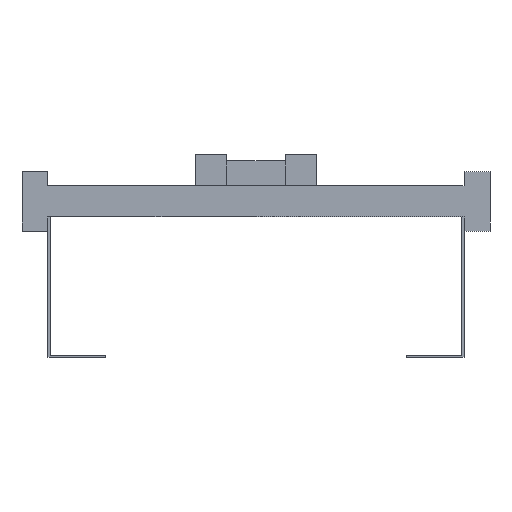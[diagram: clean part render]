
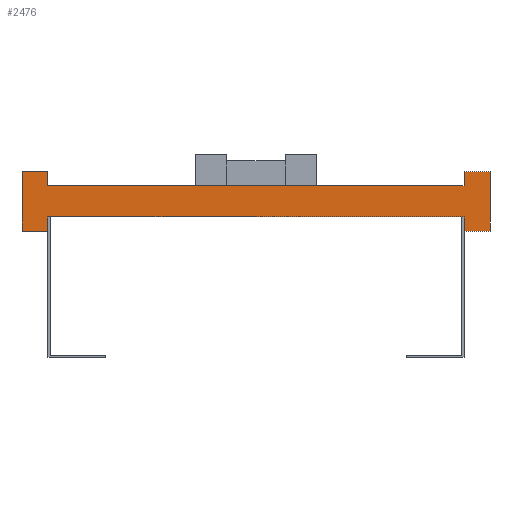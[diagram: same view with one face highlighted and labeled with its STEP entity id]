
A CAD part, front view. The second image highlights one B-rep face of the part: STEP entity #2476.
In plain terms, the highlighted planar face has unit normal (0, -1, 0).
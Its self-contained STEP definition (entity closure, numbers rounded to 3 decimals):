
#1=DIRECTION('',(0.,0.,1.));
#2=VECTOR('',#1,13.5);
#3=CARTESIAN_POINT('',(200.,0.,-28.5));
#4=LINE('',#3,#2);
#5=DIRECTION('',(0.,0.,-1.));
#6=VECTOR('',#5,13.5);
#7=CARTESIAN_POINT('',(-200.,0.,-15.));
#8=LINE('',#7,#6);
#9=DIRECTION('',(-1.,0.,0.));
#10=VECTOR('',#9,25.);
#11=CARTESIAN_POINT('',(-200.,0.,-28.5));
#12=LINE('',#11,#10);
#13=DIRECTION('',(0.,0.,1.));
#14=VECTOR('',#13,57.);
#15=CARTESIAN_POINT('',(-225.,0.,-28.5));
#16=LINE('',#15,#14);
#17=DIRECTION('',(1.,0.,0.));
#18=VECTOR('',#17,25.);
#19=CARTESIAN_POINT('',(-225.,0.,28.5));
#20=LINE('',#19,#18);
#21=DIRECTION('',(0.,0.,-1.));
#22=VECTOR('',#21,13.5);
#23=CARTESIAN_POINT('',(-200.,0.,28.5));
#24=LINE('',#23,#22);
#25=DIRECTION('',(0.,0.,1.));
#26=VECTOR('',#25,13.5);
#27=CARTESIAN_POINT('',(200.,0.,15.));
#28=LINE('',#27,#26);
#29=DIRECTION('',(1.,0.,0.));
#30=VECTOR('',#29,25.);
#31=CARTESIAN_POINT('',(200.,0.,28.5));
#32=LINE('',#31,#30);
#33=DIRECTION('',(0.,0.,-1.));
#34=VECTOR('',#33,57.);
#35=CARTESIAN_POINT('',(225.,0.,28.5));
#36=LINE('',#35,#34);
#37=DIRECTION('',(-1.,0.,0.));
#38=VECTOR('',#37,25.);
#39=CARTESIAN_POINT('',(225.,0.,-28.5));
#40=LINE('',#39,#38);
#1849=DIRECTION('',(1.,0.,0.));
#1850=VECTOR('',#1849,400.);
#1851=CARTESIAN_POINT('',(-200.,0.,-15.));
#1852=LINE('',#1851,#1850);
#1861=DIRECTION('',(1.,0.,0.));
#1862=VECTOR('',#1861,400.);
#1863=CARTESIAN_POINT('',(-200.,0.,15.));
#1864=LINE('',#1863,#1862);
#1865=CARTESIAN_POINT('',(-225.,0.,28.5));
#1866=CARTESIAN_POINT('',(-200.,0.,28.5));
#1867=VERTEX_POINT('',#1865);
#1868=VERTEX_POINT('',#1866);
#1869=CARTESIAN_POINT('',(-200.,0.,-28.5));
#1870=CARTESIAN_POINT('',(-225.,0.,-28.5));
#1871=VERTEX_POINT('',#1869);
#1872=VERTEX_POINT('',#1870);
#1873=CARTESIAN_POINT('',(225.,0.,28.5));
#1874=CARTESIAN_POINT('',(225.,0.,-28.5));
#1875=VERTEX_POINT('',#1873);
#1876=VERTEX_POINT('',#1874);
#1877=CARTESIAN_POINT('',(200.,0.,-28.5));
#1878=VERTEX_POINT('',#1877);
#1879=CARTESIAN_POINT('',(200.,0.,28.5));
#1880=VERTEX_POINT('',#1879);
#1897=CARTESIAN_POINT('',(-200.,0.,-15.));
#1899=VERTEX_POINT('',#1897);
#1901=CARTESIAN_POINT('',(-200.,0.,15.));
#1903=VERTEX_POINT('',#1901);
#1905=CARTESIAN_POINT('',(200.,0.,-15.));
#1907=VERTEX_POINT('',#1905);
#1909=CARTESIAN_POINT('',(200.,0.,15.));
#1911=VERTEX_POINT('',#1909);
#2445=CARTESIAN_POINT('',(0.,0.,0.));
#2446=DIRECTION('',(0.,1.,0.));
#2447=DIRECTION('',(1.,0.,0.));
#2448=AXIS2_PLACEMENT_3D('',#2445,#2446,#2447);
#2449=PLANE('',#2448);
#2451=ORIENTED_EDGE('',*,*,#2450,.T.);
#2453=ORIENTED_EDGE('',*,*,#2452,.F.);
#2455=ORIENTED_EDGE('',*,*,#2454,.T.);
#2457=ORIENTED_EDGE('',*,*,#2456,.T.);
#2459=ORIENTED_EDGE('',*,*,#2458,.T.);
#2461=ORIENTED_EDGE('',*,*,#2460,.T.);
#2463=ORIENTED_EDGE('',*,*,#2462,.T.);
#2465=ORIENTED_EDGE('',*,*,#2464,.T.);
#2467=ORIENTED_EDGE('',*,*,#2466,.T.);
#2469=ORIENTED_EDGE('',*,*,#2468,.T.);
#2471=ORIENTED_EDGE('',*,*,#2470,.T.);
#2473=ORIENTED_EDGE('',*,*,#2472,.T.);
#2474=EDGE_LOOP('',(#2451,#2453,#2455,#2457,#2459,#2461,#2463,#2465,#2467,#2469,
#2471,#2473));
#2475=FACE_OUTER_BOUND('',#2474,.F.);
#2476=ADVANCED_FACE('',(#2475),#2449,.F.);
#2450=EDGE_CURVE('',#1878,#1907,#4,.T.);
#2452=EDGE_CURVE('',#1899,#1907,#1852,.T.);
#2454=EDGE_CURVE('',#1899,#1871,#8,.T.);
#2456=EDGE_CURVE('',#1871,#1872,#12,.T.);
#2458=EDGE_CURVE('',#1872,#1867,#16,.T.);
#2460=EDGE_CURVE('',#1867,#1868,#20,.T.);
#2462=EDGE_CURVE('',#1868,#1903,#24,.T.);
#2464=EDGE_CURVE('',#1903,#1911,#1864,.T.);
#2466=EDGE_CURVE('',#1911,#1880,#28,.T.);
#2468=EDGE_CURVE('',#1880,#1875,#32,.T.);
#2470=EDGE_CURVE('',#1875,#1876,#36,.T.);
#2472=EDGE_CURVE('',#1876,#1878,#40,.T.);
